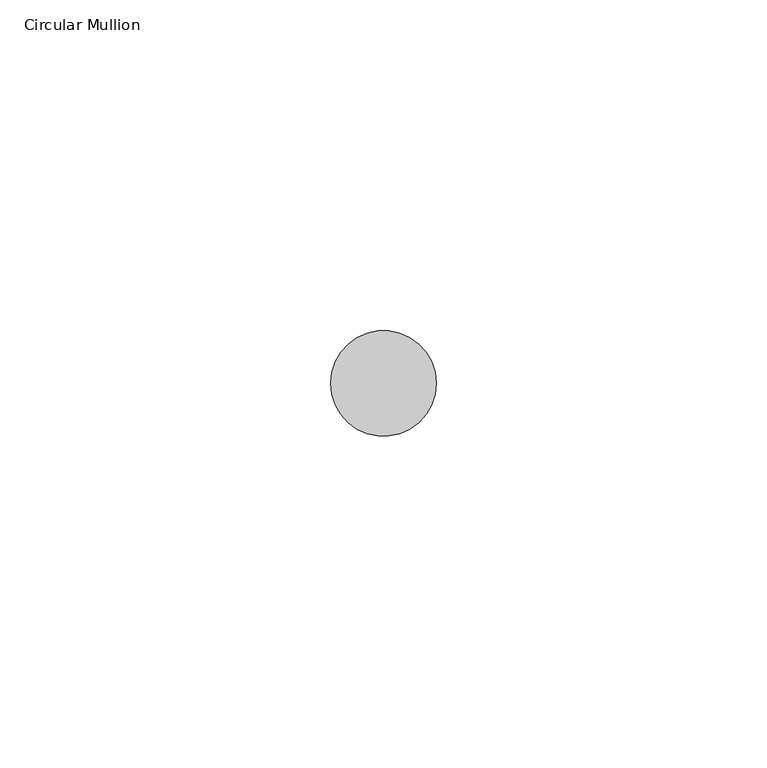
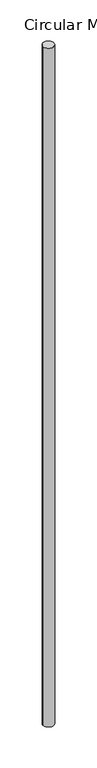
"""IFC4 building model written with IfcOpenShell, lengths in millimetres: member geometry, Circular Mullion : ARQ_HERR_16mm."""

from ifc_helpers import new_model, si_unit, point, frame, origin, origin_2d, place, context, project, spatial, circle_curve, trimmed, segment, composite_curve, outline, extrude, source, transform, mapped, element, save


def circular_mullion_eb3a7dd2(model_context):
    return source(origin(), model_context, "Body", "SweptSolid", [
        extrude(outline(composite_curve([segment(trimmed(circle_curve(origin_2d(), 8.0), [point((8.0, 0.0))], [point((-8.0, 0.0))], False, "CARTESIAN"), True, "CONTINUOUS"), segment(trimmed(circle_curve(origin_2d(), 8.0), [point((-8.0, 0.0))], [point((8.0, 0.0))], False, "CARTESIAN"), True, "CONTINUOUS")], self_intersect=False)), frame((0.0, 0.0, -1044.2499815), z_axis=(0.0, 0.0, 1.0), x_axis=(1.0, 0.0, 0.0)), (0.0, 0.0, 1.0), 1044.2499815),
    ])


if __name__ == "__main__":
    model = new_model("IFC4")
    model_context = context("Model", 3, world=origin())
    ifc_project = project(units=[si_unit("LENGTHUNIT", "METRE", prefix="MILLI")], contexts=[model_context])
    site = spatial("IfcSite", under=ifc_project)
    building = spatial("IfcBuilding", under=site)
    placement = place(None, origin())
    circular_mullion_shape = circular_mullion_eb3a7dd2(model_context)
    element("IfcMember", 1, ObjectType="Circular Mullion : ARQ_HERR_16mm", at=placement, inside=building, context=model_context, shape_type="MappedRepresentation", body=[
        mapped(circular_mullion_shape, transform((0.0, 0.0, 0.0), x_axis=(1.0, 0.0, 0.0), y_axis=(0.0, 1.0, 0.0), z_axis=(0.0, 0.0, 1.0))),
    ])
    save(model, "model.ifc")
